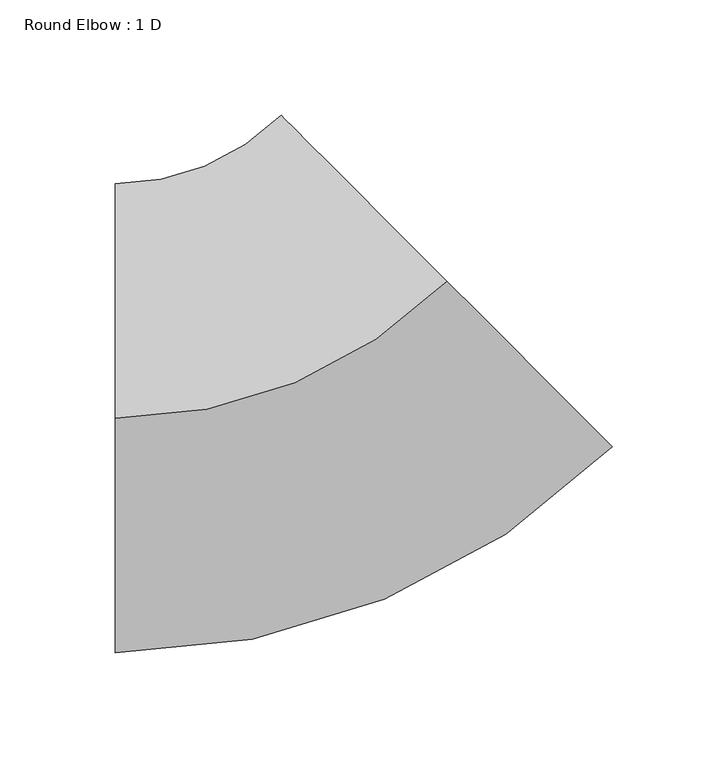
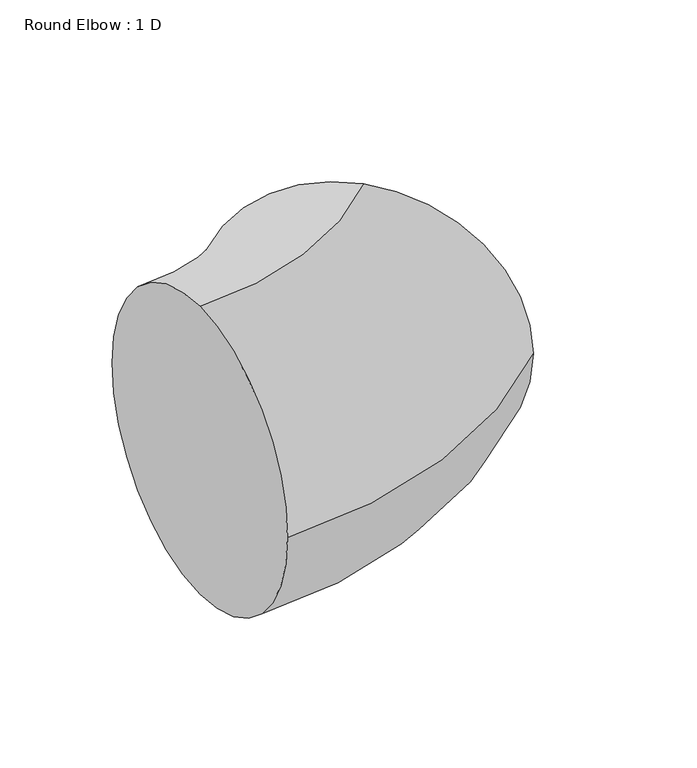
"""IFC4 building model written with IfcOpenShell, lengths in millimetres: duct fitting geometry, Round Elbow : 1 D."""

from ifc_helpers import new_model, si_unit, point, frame, origin, place, context, project, spatial, circle_curve, ellipse_curve, trimmed, source, transform, mapped, element, save
from ifc_brep_helpers import plane_surface, revolved_surface, advanced_brep


def round_elbow_1_d_ab3aa7ba(model_context):
    return source(origin(), model_context, "Body", "AdvancedBrep", [
        advanced_brep(
        [(-84.1681959, 0.0, 101.6), (-84.1681959, 101.6, 0.0), (-84.1681959, 0.0, -101.6), (-84.1681959, -101.6, 0.0), (59.5159021, 59.5159021, 101.6), (131.357951, -12.3261469, 0.0), (59.5159021, 59.5159021, -101.6), (-12.3261469, 131.357951, 0.0)],
        [
            (0, 1, circle_curve(frame((-84.1681959, 0.0, 0.0), z_axis=(-1.0, 0.0, 0.0), x_axis=(0.0, 1.0, 0.0)), 101.6)),
            (1, 2, circle_curve(frame((-84.1681959, 0.0, 0.0), z_axis=(-1.0, 0.0, 0.0), x_axis=(0.0, 1.0, 0.0)), 101.6)),
            (2, 3, circle_curve(frame((-84.1681959, 0.0, 0.0), z_axis=(-1.0, 0.0, 0.0), x_axis=(0.0, 1.0, 0.0)), 101.6)),
            (3, 0, circle_curve(frame((-84.1681959, 0.0, 0.0), z_axis=(-1.0, 0.0, 0.0), x_axis=(0.0, 1.0, 0.0)), 101.6)),
            (4, 5, circle_curve(frame((59.5159021, 59.5159021, 0.0), z_axis=(0.707106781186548, 0.707106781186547, 0.0), x_axis=(-0.707106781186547, 0.707106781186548, 0.0)), 101.6)),
            (5, 6, circle_curve(frame((59.5159021, 59.5159021, 0.0), z_axis=(0.707106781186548, 0.707106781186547, 0.0), x_axis=(-0.707106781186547, 0.707106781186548, 0.0)), 101.6)),
            (6, 7, circle_curve(frame((59.5159021, 59.5159021, 0.0), z_axis=(0.707106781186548, 0.707106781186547, 0.0), x_axis=(-0.707106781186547, 0.707106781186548, 0.0)), 101.6)),
            (7, 4, circle_curve(frame((59.5159021, 59.5159021, 0.0), z_axis=(0.707106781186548, 0.707106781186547, 0.0), x_axis=(-0.707106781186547, 0.707106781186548, 0.0)), 101.6)),
            (7, 1, circle_curve(frame((-84.1681959, 203.2, 0.0), z_axis=(0.0, 0.0, -1.0), x_axis=(0.0, -1.0, 0.0)), 101.6)),
            (0, 4, circle_curve(frame((-84.1681959, 203.2, 101.6), z_axis=(0.0, 0.0, 1.0), x_axis=(0.0, -1.0, 0.0)), 203.2)),
            (6, 2, circle_curve(frame((-84.1681959, 203.2, -101.6), z_axis=(0.0, 0.0, -1.0), x_axis=(0.0, -1.0, 0.0)), 203.2)),
            (5, 3, circle_curve(frame((-84.1681959, 203.2, 0.0), z_axis=(0.0, 0.0, -1.0), x_axis=(0.0, -1.0, 0.0)), 304.8)),
        ],
        [
            plane_surface(frame((-84.1681959, 0.0, 0.0), z_axis=(-1.0, 0.0, 0.0), x_axis=(0.0, 0.0, 1.0))),
            plane_surface(frame((59.5159021, 59.5159021, 0.0), z_axis=(0.707106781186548, 0.7071067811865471, 0.0), x_axis=(0.0, 0.0, 1.0))),
            revolved_surface(trimmed(ellipse_curve(frame((-84.1681959, 0.0, 0.0), z_axis=(-1.0, 0.0, 0.0), x_axis=(0.0, 1.0, 0.0)), 101.6, 101.6), [point((-84.1681959, 0.0, 101.6))], [point((-84.1681959, 101.6, 0.0))], True, "CARTESIAN"), (-84.1681959, 203.2, 0.0), (0.0, 0.0, 1.0)),
            revolved_surface(trimmed(ellipse_curve(frame((-84.1681959, 0.0, 0.0), z_axis=(-1.0, 0.0, 0.0), x_axis=(0.0, 1.0, 0.0)), 101.6, 101.6), [point((-84.1681959, 101.6, 0.0))], [point((-84.1681959, 0.0, -101.6))], True, "CARTESIAN"), (-84.1681959, 203.2, 0.0), (0.0, 0.0, 1.0)),
            revolved_surface(trimmed(ellipse_curve(frame((-84.1681959, 0.0, 0.0), z_axis=(-1.0, 0.0, 0.0), x_axis=(0.0, 1.0, 0.0)), 101.6, 101.6), [point((-84.1681959, 0.0, -101.6))], [point((-84.1681959, -101.6, 0.0))], True, "CARTESIAN"), (-84.1681959, 203.2, 0.0), (0.0, 0.0, 1.0)),
            revolved_surface(trimmed(ellipse_curve(frame((-84.1681959, 0.0, 0.0), z_axis=(-1.0, 0.0, 0.0), x_axis=(0.0, 1.0, 0.0)), 101.6, 101.6), [point((-84.1681959, -101.6, 0.0))], [point((-84.1681959, 0.0, 101.6))], True, "CARTESIAN"), (-84.1681959, 203.2, 0.0), (0.0, 0.0, 1.0)),
        ],
        [
            (0, [[1, 2, 3, 4]]),
            (1, [[5, 6, 7, 8]]),
            (2, [[9, -1, 10, -8]]),
            (3, [[11, -2, -9, -7]]),
            (4, [[12, -3, -11, -6]]),
            (5, [[-10, -4, -12, -5]]),
        ],
    ),
    ])


if __name__ == "__main__":
    model = new_model("IFC4")
    model_context = context("Model", 3, world=origin())
    ifc_project = project(units=[si_unit("LENGTHUNIT", "METRE", prefix="MILLI")], contexts=[model_context])
    site = spatial("IfcSite", under=ifc_project)
    building = spatial("IfcBuilding", under=site)
    placement = place(None, origin())
    round_elbow_1_d_shape = round_elbow_1_d_ab3aa7ba(model_context)
    element("IfcDuctFitting", 1, ObjectType="Round Elbow : 1 D", at=placement, inside=building, context=model_context, shape_type="MappedRepresentation", body=[
        mapped(round_elbow_1_d_shape, transform((0.0, 0.0, 0.0), x_axis=(1.0, 0.0, 0.0), y_axis=(0.0, 1.0, 0.0), z_axis=(0.0, 0.0, 1.0))),
    ])
    save(model, "model.ifc")
